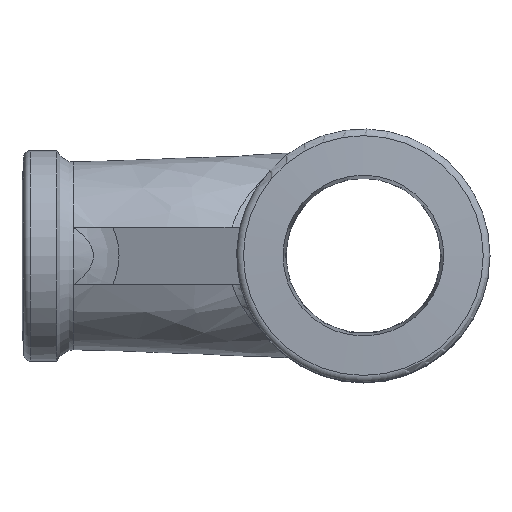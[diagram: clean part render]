
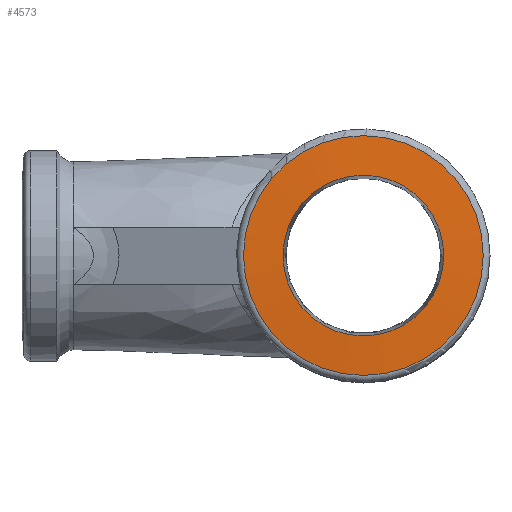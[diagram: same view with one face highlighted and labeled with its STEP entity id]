
A CAD part, top view. The second image highlights one B-rep face of the part: STEP entity #4573.
In plain terms, the highlighted conical face has half-angle 87 degrees and reference radius 14.55 mm.
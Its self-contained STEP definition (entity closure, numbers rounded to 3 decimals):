
#4531=CARTESIAN_POINT('',(16.852,0.,24.709));
#4532=VERTEX_POINT('',#4531);
#4533=CARTESIAN_POINT('',(0.0,0.,24.709));
#4534=DIRECTION('',(0.0,0.0,-1.0));
#4535=DIRECTION('',(-1.0,0.0,0.0));
#4536=AXIS2_PLACEMENT_3D('',#4533,#4534,#4535);
#4537=CIRCLE('',#4536,16.852);
#4538=EDGE_CURVE('',#4532,#4532,#4537,.T.);
#4554=CARTESIAN_POINT('',(0.0,0.0,24.83));
#4555=DIRECTION('',(0.0,0.0,-1.0));
#4556=DIRECTION('',(-1.0,0.0,0.0));
#4557=AXIS2_PLACEMENT_3D('',#4554,#4555,#4556);
#4558=CONICAL_SURFACE('',#4557,14.55,87.);
#4559=CARTESIAN_POINT('',(11.3,0.,25.0));
#4560=VERTEX_POINT('',#4559);
#4561=CARTESIAN_POINT('',(0.0,0.0,25.0));
#4562=DIRECTION('',(0.0,0.0,-1.0));
#4563=DIRECTION('',(-1.0,0.0,0.0));
#4564=AXIS2_PLACEMENT_3D('',#4561,#4562,#4563);
#4565=CIRCLE('',#4564,11.3);
#4566=EDGE_CURVE('',#4560,#4560,#4565,.T.);
#4567=ORIENTED_EDGE('',*,*,#4566,.T.);
#4568=EDGE_LOOP('',(#4567));
#4569=FACE_OUTER_BOUND('',#4568,.T.);
#4570=ORIENTED_EDGE('',*,*,#4538,.F.);
#4571=EDGE_LOOP('',(#4570));
#4572=FACE_BOUND('',#4571,.T.);
#4573=ADVANCED_FACE('',(#4569,#4572),#4558,.T.);
